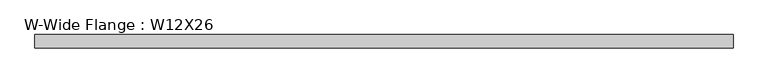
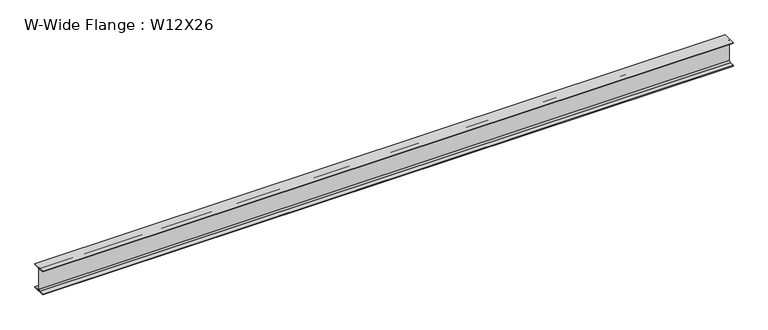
"""IFC4 building model written with IfcOpenShell, lengths in millimetres: beam geometry, W-Wide Flange : W12X26."""

from ifc_helpers import new_model, si_unit, point, frame, frame_2d, origin, place, context, project, spatial, polyline, circle_curve, trimmed, segment, composite_curve, outline, extrude, source, transform, mapped, element, save


def w_wide_flange_w12x26_08aea776(model_context):
    return source(origin(), model_context, "Body", "SweptSolid", [
        extrude(outline(composite_curve([segment(polyline([(82.4011719, -145.5539063), (82.4011719, -155.178125), (-82.4011719, -155.178125), (-82.4011719, -145.5539063), (-20.2902344, -145.5539063)]), True, "CONTINUOUS"), segment(trimmed(circle_curve(frame_2d((-20.2902344, -128.190625)), 17.3632812), [point((-20.2902344, -145.5539063))], [point((-2.9269531, -128.190625))], True, "CARTESIAN"), True, "CONTINUOUS"), segment(polyline([(-2.9269531, -128.190625), (-2.9269531, 128.190625)]), True, "CONTINUOUS"), segment(trimmed(circle_curve(frame_2d((-20.2902344, 128.190625)), 17.3632812), [point((-2.9269531, 128.190625))], [point((-20.2902344, 145.5539062))], True, "CARTESIAN"), True, "CONTINUOUS"), segment(polyline([(-20.2902344, 145.5539062), (-82.4011719, 145.5539062), (-82.4011719, 155.178125), (82.4011719, 155.178125), (82.4011719, 145.5539062), (20.2902344, 145.5539062)]), True, "CONTINUOUS"), segment(trimmed(circle_curve(frame_2d((20.2902344, 128.190625)), 17.3632812), [point((20.2902344, 145.5539062))], [point((2.9269531, 128.190625))], True, "CARTESIAN"), True, "CONTINUOUS"), segment(polyline([(2.9269531, 128.190625), (2.9269531, -128.190625)]), True, "CONTINUOUS"), segment(trimmed(circle_curve(frame_2d((20.2902344, -128.190625)), 17.3632812), [point((2.9269531, -128.190625))], [point((20.2902344, -145.5539063))], True, "CARTESIAN"), True, "CONTINUOUS"), segment(polyline([(20.2902344, -145.5539063), (82.4011719, -145.5539063)]), True, "CONTINUOUS")], self_intersect=False)), frame((-4279.9, 0.0, 0.0), z_axis=(1.0, 0.0, 0.0), x_axis=(0.0, 1.0, 0.0)), (0.0, 0.0, 1.0), 8559.8),
    ])


if __name__ == "__main__":
    model = new_model("IFC4")
    model_context = context("Model", 3, world=origin())
    ifc_project = project(units=[si_unit("LENGTHUNIT", "METRE", prefix="MILLI")], contexts=[model_context])
    site = spatial("IfcSite", under=ifc_project)
    building = spatial("IfcBuilding", under=site)
    placement = place(None, origin())
    w_wide_flange_w12x26_shape = w_wide_flange_w12x26_08aea776(model_context)
    element("IfcBeam", 1, ObjectType="W-Wide Flange : W12X26", at=placement, inside=building, context=model_context, shape_type="MappedRepresentation", body=[
        mapped(w_wide_flange_w12x26_shape, transform((0.0, 0.0, 0.0), x_axis=(1.0, 0.0, 0.0), y_axis=(0.0, 1.0, 0.0), z_axis=(0.0, 0.0, 1.0))),
    ])
    save(model, "model.ifc")
